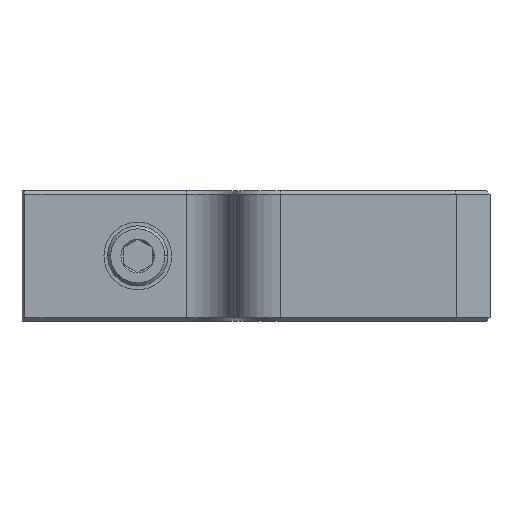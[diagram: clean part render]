
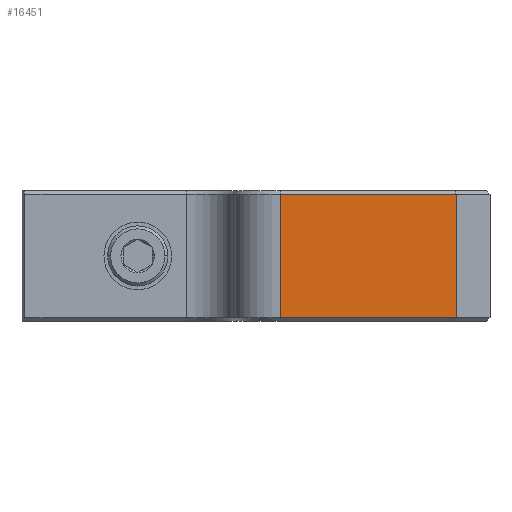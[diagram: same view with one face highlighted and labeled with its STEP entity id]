
A CAD part, left-side view. The second image highlights one B-rep face of the part: STEP entity #16451.
In plain terms, the highlighted planar face has unit normal (-1, 0, 0).
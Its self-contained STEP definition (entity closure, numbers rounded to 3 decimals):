
#7628=DIRECTION('',(0.,1.,0.));
#7629=VECTOR('',#7628,11.979);
#7630=CARTESIAN_POINT('',(-34.768,-19.979,
7.746));
#7631=LINE('',#7630,#7629);
#7709=DIRECTION('',(0.,0.,1.));
#7710=VECTOR('',#7709,8.382);
#7711=CARTESIAN_POINT('',(-34.768,-8.,
7.746));
#7712=LINE('',#7711,#7710);
#7717=DIRECTION('',(0.,0.,1.));
#7718=VECTOR('',#7717,8.382);
#7719=CARTESIAN_POINT('',(-34.768,-19.979,
7.746));
#7720=LINE('',#7719,#7718);
#7729=DIRECTION('',(0.,-1.,0.));
#7730=VECTOR('',#7729,11.979);
#7731=CARTESIAN_POINT('',(-34.768,-8.,
16.128));
#7732=LINE('',#7731,#7730);
#15537=CARTESIAN_POINT('',(-34.768,-19.979,
7.746));
#15538=CARTESIAN_POINT('',(-34.768,-19.979,
16.128));
#15539=VERTEX_POINT('',#15537);
#15540=VERTEX_POINT('',#15538);
#15633=CARTESIAN_POINT('',(-34.768,-8.,
16.128));
#15634=VERTEX_POINT('',#15633);
#15689=CARTESIAN_POINT('',(-34.768,-8.,
7.746));
#15690=VERTEX_POINT('',#15689);
#16439=CARTESIAN_POINT('',(-34.768,-8.,
16.382));
#16440=DIRECTION('',(1.,0.,0.));
#16441=DIRECTION('',(0.,1.,0.));
#16442=AXIS2_PLACEMENT_3D('',#16439,#16440,#16441);
#16443=PLANE('',#16442);
#16444=ORIENTED_EDGE('',*,*,#16205,.F.);
#16445=ORIENTED_EDGE('',*,*,#16290,.T.);
#16446=ORIENTED_EDGE('',*,*,#16430,.T.);
#16448=ORIENTED_EDGE('',*,*,#16447,.T.);
#16449=EDGE_LOOP('',(#16444,#16445,#16446,#16448));
#16450=FACE_OUTER_BOUND('',#16449,.F.);
#16451=ADVANCED_FACE('',(#16450),#16443,.F.);
#16205=EDGE_CURVE('',#15539,#15540,#7720,.T.);
#16290=EDGE_CURVE('',#15539,#15690,#7631,.T.);
#16430=EDGE_CURVE('',#15690,#15634,#7712,.T.);
#16447=EDGE_CURVE('',#15634,#15540,#7732,.T.);
